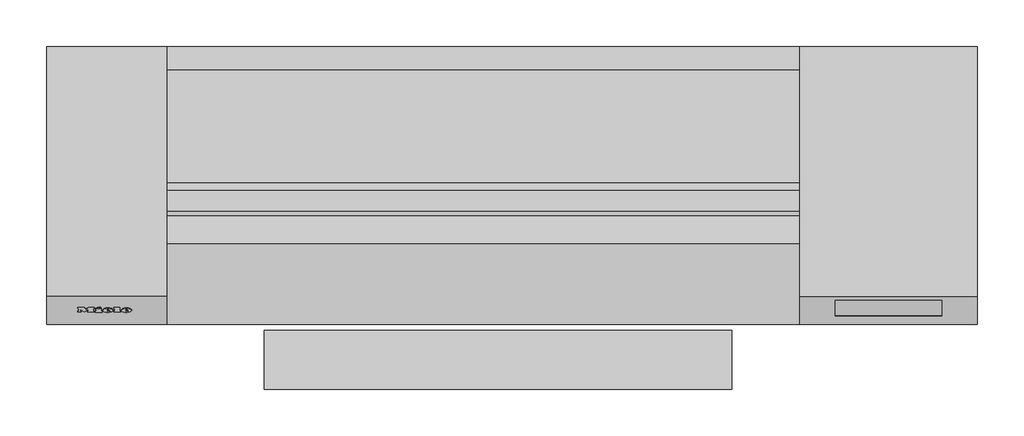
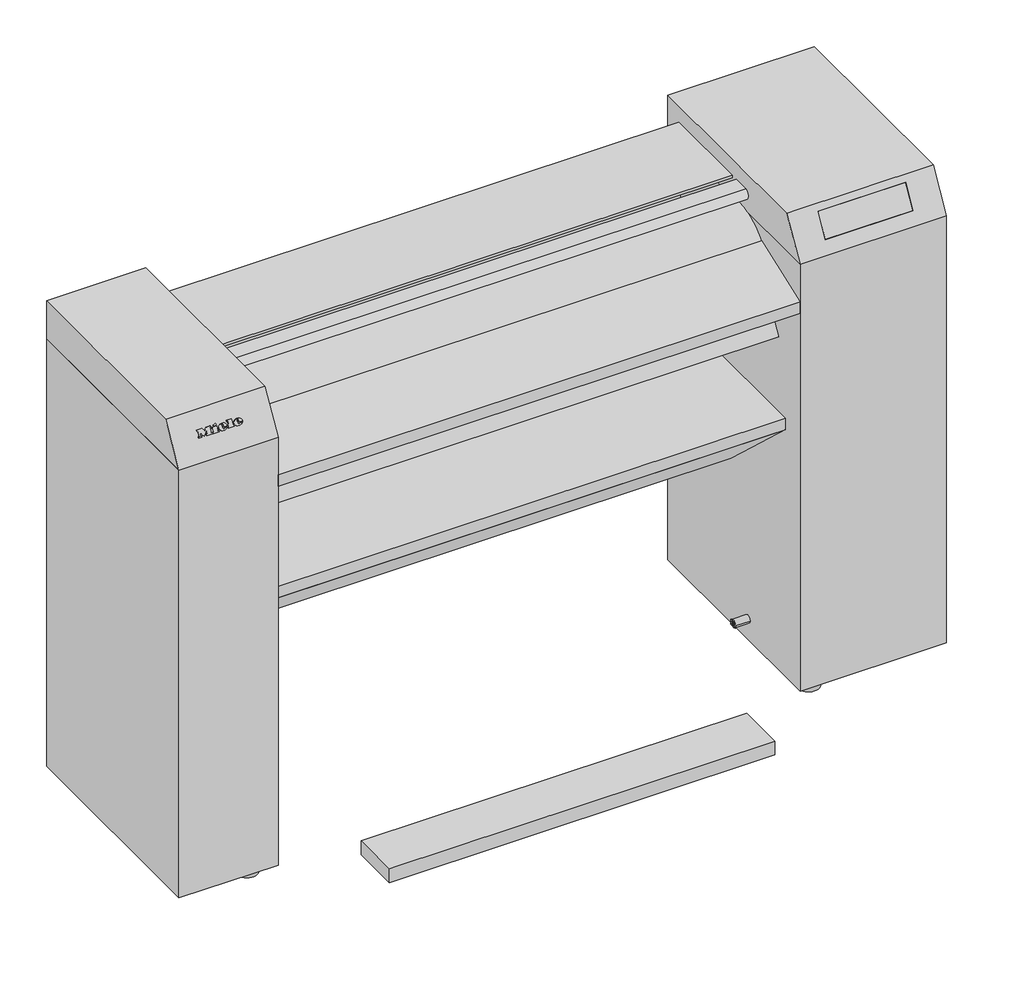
# Not in any storey: 1 proxy.
"""IFC4 building model written with IfcOpenShell, lengths in millimetres."""

from ifc_helpers import new_model, si_unit, origin, place, context, project, spatial, transform, mapped, element, save
from components import specialty_equipment_22e80a76

model = new_model("IFC4")

# Units and contexts
model_context = context("Model", 3, world=origin())
ifc_project = project(units=[si_unit("LENGTHUNIT", "METRE", prefix="MILLI")], contexts=[model_context])

# Site, building
site = spatial("IfcSite", under=ifc_project)
building = spatial("IfcBuilding", under=site)

# Proxy
placement = place(None, origin())
specialty_equipment_shape = specialty_equipment_22e80a76(model_context)
element("IfcBuildingElementProxy", 1, Name="11741250_EU_PRI210EL_STWAB : 53210003_EU_11741250_PRI210EL_STWAB", ObjectType="11741250_EU_PRI210EL_STWAB : 53210003_EU_11741250_PRI210EL_STWAB", at=placement, inside=building, context=model_context, shape_type="MappedRepresentation", body=[
    mapped(specialty_equipment_shape, transform((0.0, 0.0, 0.0), x_axis=(1.0, 0.0, 0.0), y_axis=(0.0, 1.0, 0.0), z_axis=(0.0, 0.0, 1.0))),
])

save(model, "model.ifc")
